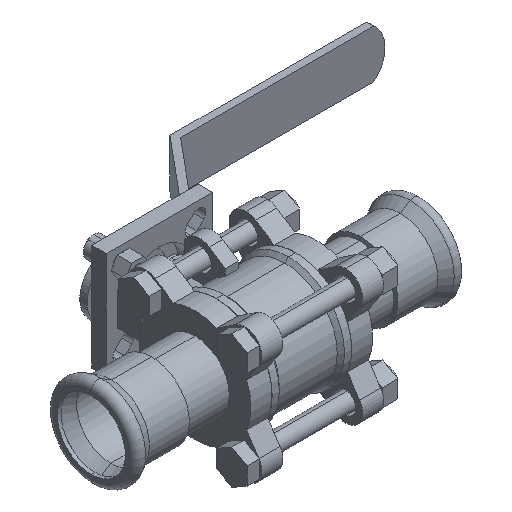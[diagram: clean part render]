
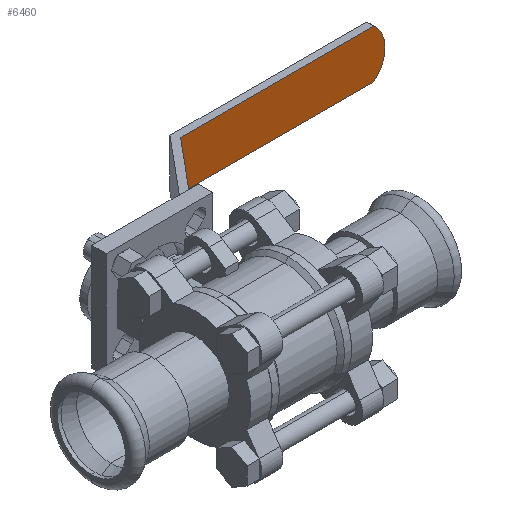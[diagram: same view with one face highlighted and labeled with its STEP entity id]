
A CAD part, isometric view. The second image highlights one B-rep face of the part: STEP entity #6460.
In plain terms, the highlighted planar face has unit normal (0, -1, 0).
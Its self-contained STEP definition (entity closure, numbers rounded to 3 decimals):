
#711 = CARTESIAN_POINT ( 'NONE',  ( 47., 78.25, 10. ) ) ;
#871 = VERTEX_POINT ( 'NONE', #25329 ) ;
#1219 = DIRECTION ( 'NONE',  ( 0., 0., 1. ) ) ;
#1323 = EDGE_CURVE ( 'NONE', #18101, #871, #5652, .T. ) ;
#3539 = LINE ( 'NONE', #28812, #22596 ) ;
#3839 = CARTESIAN_POINT ( 'NONE',  ( 47., 78.25, 10. ) ) ;
#5042 = EDGE_CURVE ( 'NONE', #31961, #871, #31282, .T. ) ;
#5652 = CIRCLE ( 'NONE', #22208, 13. ) ;
#6460 = ADVANCED_FACE ( 'NONE', ( #28543 ), #29043, .F. ) ;
#7973 = DIRECTION ( 'NONE',  ( 0., 0., -1. ) ) ;
#9312 = DIRECTION ( 'NONE',  ( 0., 1., 0. ) ) ;
#10133 = DIRECTION ( 'NONE',  ( 1., 0., 0. ) ) ;
#10165 = DIRECTION ( 'NONE',  ( 0., 0., -1. ) ) ;
#10659 = CARTESIAN_POINT ( 'NONE',  ( 118.693, 78.25, 0. ) ) ;
#10926 = EDGE_CURVE ( 'NONE', #31961, #15398, #3539, .T. ) ;
#10944 = DIRECTION ( 'NONE',  ( 1., 0., 0. ) ) ;
#11529 = CARTESIAN_POINT ( 'NONE',  ( 47., 78.25, 10. ) ) ;
#11826 = CARTESIAN_POINT ( 'NONE',  ( 47., 78.25, -10. ) ) ;
#12725 = ORIENTED_EDGE ( 'NONE', *, *, #10926, .T. ) ;
#15398 = VERTEX_POINT ( 'NONE', #11826 ) ;
#15674 = DIRECTION ( 'NONE',  ( 0., -1., 0. ) ) ;
#17605 = EDGE_LOOP ( 'NONE', ( #22663, #21750, #18036, #12725 ) ) ;
#17635 = AXIS2_PLACEMENT_3D ( 'NONE', #11529, #9312, #1219 ) ;
#18036 = ORIENTED_EDGE ( 'NONE', *, *, #5042, .F. ) ;
#18101 = VERTEX_POINT ( 'NONE', #22721 ) ;
#18164 = VECTOR ( 'NONE', #10944, 1000. ) ;
#21750 = ORIENTED_EDGE ( 'NONE', *, *, #1323, .T. ) ;
#22208 = AXIS2_PLACEMENT_3D ( 'NONE', #10659, #15674, #10165 ) ;
#22596 = VECTOR ( 'NONE', #7973, 1000. ) ;
#22663 = ORIENTED_EDGE ( 'NONE', *, *, #30595, .T. ) ;
#22682 = VECTOR ( 'NONE', #10133, 1000. ) ;
#22721 = CARTESIAN_POINT ( 'NONE',  ( 127., 78.25, -10. ) ) ;
#25329 = CARTESIAN_POINT ( 'NONE',  ( 127., 78.25, 10. ) ) ;
#28543 = FACE_OUTER_BOUND ( 'NONE', #17605, .T. ) ;
#28812 = CARTESIAN_POINT ( 'NONE',  ( 47., 78.25, 10. ) ) ;
#29043 = PLANE ( 'NONE',  #17635 ) ;
#30595 = EDGE_CURVE ( 'NONE', #15398, #18101, #30655, .T. ) ;
#30655 = LINE ( 'NONE', #33023, #22682 ) ;
#31282 = LINE ( 'NONE', #3839, #18164 ) ;
#31961 = VERTEX_POINT ( 'NONE', #711 ) ;
#33023 = CARTESIAN_POINT ( 'NONE',  ( 47., 78.25, -10. ) ) ;
